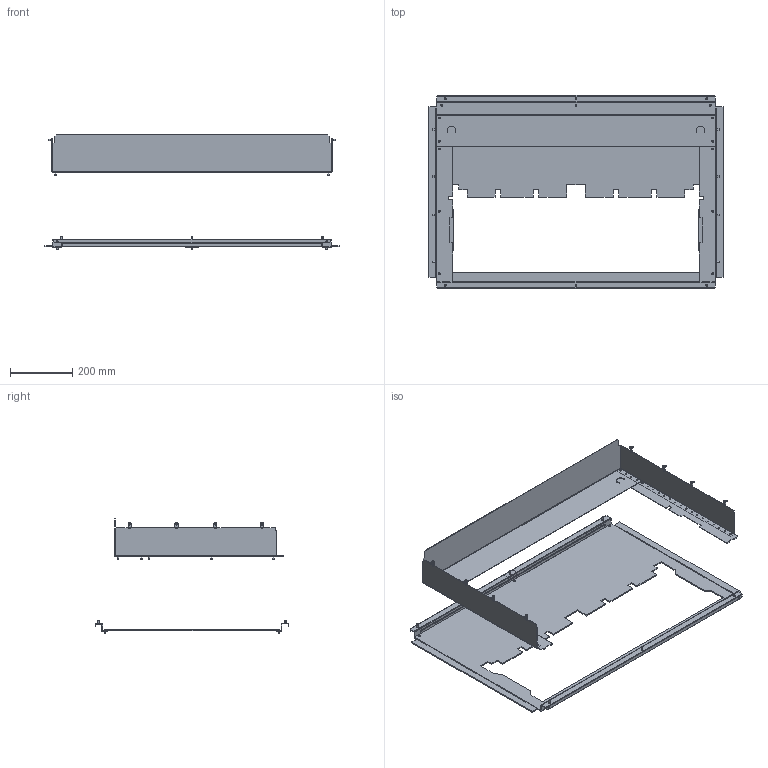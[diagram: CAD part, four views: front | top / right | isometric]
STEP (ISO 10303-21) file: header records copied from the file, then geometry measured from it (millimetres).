
FILE_DESCRIPTION(('CAx-IF Rec.Pracs.---Model Styling and Organization---1.2---2011-12-15','CAx-IF Rec.Pracs.---Geometric and Assembly Validation Properties---4.1---2014-06-16','CAx-IF Rec.Pracs.---PMI Polyline Presentation---2.0---2013-05-24'),'2;1');
FILE_NAME('R5FRC6V11526.stp','2021-05-14T11:03:28+03:00',(''),(''),'STEP Interface 4.4 by CT CoreTechnologie','3D_Evolution4.4 by CT CoreTechnologie','');
FILE_SCHEMA(('AUTOMOTIVE_DESIGN { 1 0 10303 214 1 1 1 1 }'));
Length unit declared in the file: millimetre
Products named in the file (8): R5FRC6V11526; M5x12 DIN 7500 C Torx Zinc_stright; RB.1986.00.00.0_-00 (S5); RB.1984.00.00.0_-00 (AF5000 W 4P); RB.1987.00.00.0_-00 (S5); RB.0547.00.00.0_-02; RB.1985.00.00.0_-00 (S5); RB.1099.00.00.0
Assembly tree (38 placements, depth 2):
  R5FRC6V11526
    M5x12 DIN 7500 C Torx Zinc_stright  x29
    RB.1986.00.00.0_-00 (S5)  x2
    RB.1984.00.00.0_-00 (AF5000 W 4P)
    RB.1987.00.00.0_-00 (S5)
    RB.0547.00.00.0_-02  x2
    RB.1985.00.00.0_-00 (S5)  x2
    RB.1099.00.00.0
Bounding box: 945 x 621 x 368 mm (x, y, z)
Surface area: 1631046.2 mm2 (no closed solid volume)
Topology: 0 solids, 38 shells, 722 faces, 1898 edges, 1252 vertices
Faces by surface type: plane 434, cylinder 288
Entity records: 13744 total; most frequent: CARTESIAN_POINT 2243, DIRECTION 2219, ORIENTED_EDGE 2190, EDGE_CURVE 1095, VECTOR 823, LINE 823, VERTEX_POINT 722, AXIS2_PLACEMENT_3D 698
